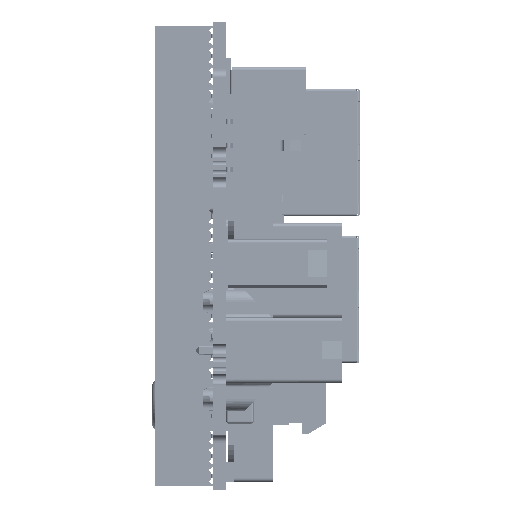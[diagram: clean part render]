
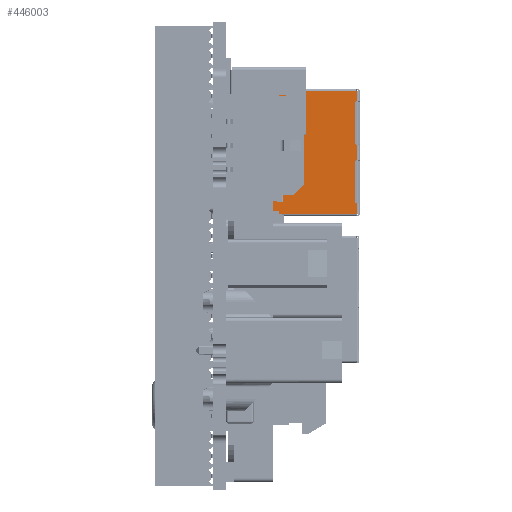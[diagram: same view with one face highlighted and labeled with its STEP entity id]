
A CAD part, left-side view. The second image highlights one B-rep face of the part: STEP entity #446003.
In plain terms, the highlighted planar face has unit normal (-1, 0, 0) as drawn and (0, 1, 0) by its records, which use the part's own axes.
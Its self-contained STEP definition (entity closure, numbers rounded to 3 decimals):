
#435322=DIRECTION('',(0.,0.,1.));
#435323=VECTOR('',#435322,0.13);
#435324=CARTESIAN_POINT('',(7.8,10.17,16.67));
#435325=LINE('',#435324,#435323);
#436427=DIRECTION('',(-1.,0.,0.));
#436428=VECTOR('',#436427,1.3);
#436429=CARTESIAN_POINT('',(7.8,10.17,16.8));
#436430=LINE('',#436429,#436428);
#436434=CARTESIAN_POINT('',(-1.1,10.17,16.63));
#436435=DIRECTION('',(0.,-1.,0.));
#436436=DIRECTION('',(0.,0.,-1.));
#436437=AXIS2_PLACEMENT_3D('',#436434,#436435,#436436);
#436442=CARTESIAN_POINT('',(-6.4,10.17,16.63));
#436443=DIRECTION('',(0.,-1.,0.));
#436444=DIRECTION('',(-1.,0.,0.));
#436445=AXIS2_PLACEMENT_3D('',#436442,#436443,#436444);
#436450=DIRECTION('',(0.,0.,1.));
#436451=VECTOR('',#436450,0.13);
#436452=CARTESIAN_POINT('',(-7.8,10.17,16.67));
#436453=LINE('',#436452,#436451);
#436457=DIRECTION('',(-1.,0.,0.));
#436458=VECTOR('',#436457,15.6);
#436459=CARTESIAN_POINT('',(7.8,10.17,1.2));
#436460=LINE('',#436459,#436458);
#436464=DIRECTION('',(0.,0.,1.));
#436465=VECTOR('',#436464,0.17);
#436466=CARTESIAN_POINT('',(6.5,10.17,16.63));
#436467=LINE('',#436466,#436465);
#436471=CARTESIAN_POINT('',(6.4,10.17,16.63));
#436472=DIRECTION('',(0.,-1.,0.));
#436473=DIRECTION('',(0.,0.,-1.));
#436474=AXIS2_PLACEMENT_3D('',#436471,#436472,#436473);
#436479=DIRECTION('',(1.,0.,0.));
#436480=VECTOR('',#436479,5.3);
#436481=CARTESIAN_POINT('',(1.1,10.17,16.53));
#436482=LINE('',#436481,#436480);
#436486=CARTESIAN_POINT('',(1.1,10.17,16.63));
#436487=DIRECTION('',(0.,-1.,0.));
#436488=DIRECTION('',(-1.,0.,0.));
#436489=AXIS2_PLACEMENT_3D('',#436486,#436487,#436488);
#436494=DIRECTION('',(0.,0.,-1.));
#436495=VECTOR('',#436494,0.17);
#436496=CARTESIAN_POINT('',(1.,10.17,16.8));
#436497=LINE('',#436496,#436495);
#436530=DIRECTION('',(0.,0.,-1.));
#436531=VECTOR('',#436530,0.17);
#436532=CARTESIAN_POINT('',(-1.,10.17,16.8));
#436533=LINE('',#436532,#436531);
#436609=DIRECTION('',(0.,0.,1.));
#436610=VECTOR('',#436609,0.17);
#436611=CARTESIAN_POINT('',(-6.5,10.17,16.63));
#436612=LINE('',#436611,#436610);
#436638=DIRECTION('',(-1.,0.,0.));
#436639=VECTOR('',#436638,1.3);
#436640=CARTESIAN_POINT('',(-6.5,10.17,16.8));
#436641=LINE('',#436640,#436639);
#437029=DIRECTION('',(0.,0.,1.));
#437030=VECTOR('',#437029,15.47);
#437031=CARTESIAN_POINT('',(7.8,10.17,1.2));
#437032=LINE('',#437031,#437030);
#437267=DIRECTION('',(0.,0.,-1.));
#437268=VECTOR('',#437267,15.47);
#437269=CARTESIAN_POINT('',(-7.8,10.17,16.67));
#437270=LINE('',#437269,#437268);
#437428=DIRECTION('',(-1.,0.,0.));
#437429=VECTOR('',#437428,5.3);
#437430=CARTESIAN_POINT('',(-1.1,10.17,16.53));
#437431=LINE('',#437430,#437429);
#437456=DIRECTION('',(-1.,0.,0.));
#437457=VECTOR('',#437456,2.);
#437458=CARTESIAN_POINT('',(1.,10.17,16.8));
#437459=LINE('',#437458,#437457);
#441549=CARTESIAN_POINT('',(-7.8,10.17,16.8));
#441550=VERTEX_POINT('',#441549);
#441551=CARTESIAN_POINT('',(-7.8,10.17,16.67));
#441552=VERTEX_POINT('',#441551);
#441569=CARTESIAN_POINT('',(-6.5,10.17,16.63));
#441570=VERTEX_POINT('',#441569);
#441571=CARTESIAN_POINT('',(-6.5,10.17,16.8));
#441572=VERTEX_POINT('',#441571);
#441713=CARTESIAN_POINT('',(-1.,10.17,16.8));
#441714=CARTESIAN_POINT('',(-1.,10.17,16.63));
#441715=VERTEX_POINT('',#441713);
#441716=VERTEX_POINT('',#441714);
#441717=CARTESIAN_POINT('',(1.,10.17,16.8));
#441718=VERTEX_POINT('',#441717);
#441719=CARTESIAN_POINT('',(1.,10.17,16.63));
#441720=VERTEX_POINT('',#441719);
#441721=CARTESIAN_POINT('',(1.1,10.17,16.53));
#441722=VERTEX_POINT('',#441721);
#441723=CARTESIAN_POINT('',(6.4,10.17,16.53));
#441724=VERTEX_POINT('',#441723);
#441725=CARTESIAN_POINT('',(6.5,10.17,16.63));
#441726=VERTEX_POINT('',#441725);
#441727=CARTESIAN_POINT('',(6.5,10.17,16.8));
#441728=VERTEX_POINT('',#441727);
#441729=CARTESIAN_POINT('',(7.8,10.17,16.8));
#441730=VERTEX_POINT('',#441729);
#441731=CARTESIAN_POINT('',(7.8,10.17,16.67));
#441732=VERTEX_POINT('',#441731);
#441733=CARTESIAN_POINT('',(7.8,10.17,1.2));
#441734=VERTEX_POINT('',#441733);
#441735=CARTESIAN_POINT('',(-7.8,10.17,1.2));
#441736=VERTEX_POINT('',#441735);
#441737=CARTESIAN_POINT('',(-6.4,10.17,16.53));
#441738=VERTEX_POINT('',#441737);
#441739=CARTESIAN_POINT('',(-1.1,10.17,16.53));
#441740=VERTEX_POINT('',#441739);
#445964=CARTESIAN_POINT('',(-7.8,10.17,17.1));
#445965=DIRECTION('',(0.,-1.,0.));
#445966=DIRECTION('',(0.,0.,-1.));
#445967=AXIS2_PLACEMENT_3D('',#445964,#445965,#445966);
#445968=PLANE('',#445967);
#445970=ORIENTED_EDGE('',*,*,#445969,.T.);
#445972=ORIENTED_EDGE('',*,*,#445971,.F.);
#445974=ORIENTED_EDGE('',*,*,#445973,.T.);
#445976=ORIENTED_EDGE('',*,*,#445975,.F.);
#445978=ORIENTED_EDGE('',*,*,#445977,.T.);
#445980=ORIENTED_EDGE('',*,*,#445979,.T.);
#445982=ORIENTED_EDGE('',*,*,#445981,.F.);
#445984=ORIENTED_EDGE('',*,*,#445983,.T.);
#445986=ORIENTED_EDGE('',*,*,#445985,.F.);
#445988=ORIENTED_EDGE('',*,*,#445987,.T.);
#445989=ORIENTED_EDGE('',*,*,#444955,.T.);
#445990=ORIENTED_EDGE('',*,*,#445959,.T.);
#445991=ORIENTED_EDGE('',*,*,#445946,.F.);
#445993=ORIENTED_EDGE('',*,*,#445992,.F.);
#445995=ORIENTED_EDGE('',*,*,#445994,.F.);
#445997=ORIENTED_EDGE('',*,*,#445996,.F.);
#445998=ORIENTED_EDGE('',*,*,#445884,.F.);
#446000=ORIENTED_EDGE('',*,*,#445999,.T.);
#446001=EDGE_LOOP('',(#445970,#445972,#445974,#445976,#445978,#445980,#445982,
#445984,#445986,#445988,#445989,#445990,#445991,#445993,#445995,#445997,#445998,
#446000));
#446002=FACE_OUTER_BOUND('',#446001,.F.);
#446003=ADVANCED_FACE('',(#446002),#445968,.F.);
#436438=CIRCLE('',#436437,0.1);
#436446=CIRCLE('',#436445,0.1);
#436475=CIRCLE('',#436474,0.1);
#436490=CIRCLE('',#436489,0.1);
#444955=EDGE_CURVE('',#441732,#441730,#435325,.T.);
#445884=EDGE_CURVE('',#441718,#441720,#436497,.T.);
#445946=EDGE_CURVE('',#441726,#441728,#436467,.T.);
#445959=EDGE_CURVE('',#441730,#441728,#436430,.T.);
#445969=EDGE_CURVE('',#441715,#441716,#436533,.T.);
#445971=EDGE_CURVE('',#441740,#441716,#436438,.T.);
#445973=EDGE_CURVE('',#441740,#441738,#437431,.T.);
#445975=EDGE_CURVE('',#441570,#441738,#436446,.T.);
#445977=EDGE_CURVE('',#441570,#441572,#436612,.T.);
#445979=EDGE_CURVE('',#441572,#441550,#436641,.T.);
#445981=EDGE_CURVE('',#441552,#441550,#436453,.T.);
#445983=EDGE_CURVE('',#441552,#441736,#437270,.T.);
#445985=EDGE_CURVE('',#441734,#441736,#436460,.T.);
#445987=EDGE_CURVE('',#441734,#441732,#437032,.T.);
#445992=EDGE_CURVE('',#441724,#441726,#436475,.T.);
#445994=EDGE_CURVE('',#441722,#441724,#436482,.T.);
#445996=EDGE_CURVE('',#441720,#441722,#436490,.T.);
#445999=EDGE_CURVE('',#441718,#441715,#437459,.T.);
